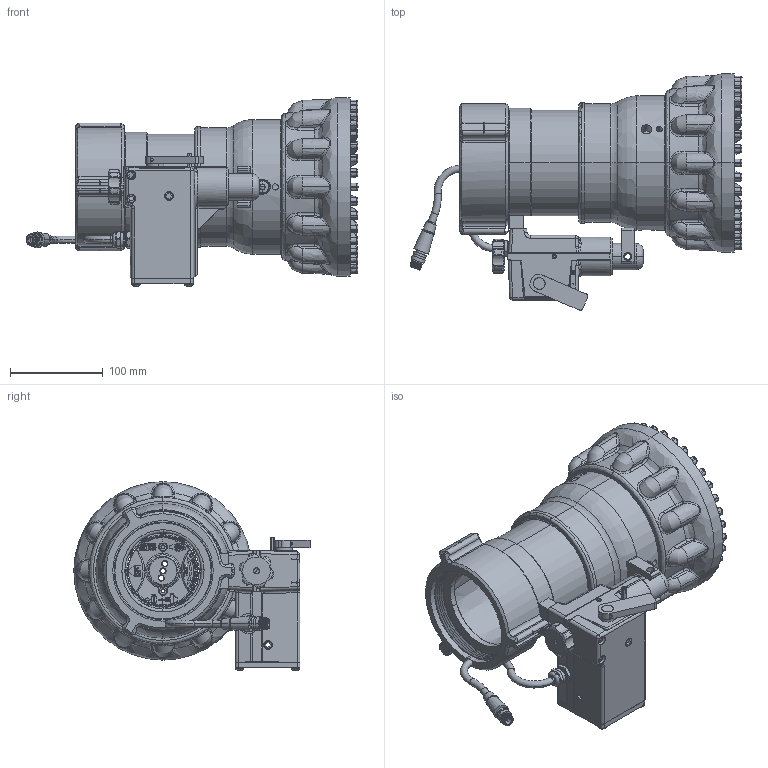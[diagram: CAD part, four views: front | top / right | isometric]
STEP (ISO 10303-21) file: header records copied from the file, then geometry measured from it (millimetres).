
FILE_DESCRIPTION (( 'STEP AP203' ), '1' );
FILE_NAME ('m-erp1250-nn.step', '2014-05-13T19:38:02', ( 'user' ), ( '' ), 'SwSTEP 2.0', 'SolidWorks 2012', '' );
FILE_SCHEMA (( 'CONFIG_CONTROL_DESIGN' ));
Products named in the file (1): m-erp1250-nn
Bounding box: 358.81 x 255.56 x 203.89 mm (x, y, z)
Surface area: 437788.3 mm2 (no closed solid volume)
Topology: 0 solids, 163 shells, 1763 faces, 7097 edges, 5443 vertices
Faces by surface type: bspline 707, plane 375, cylinder 357, cone 162, torus 91, sphere 71
Entity records: 115366 total; most frequent: CARTESIAN_POINT 66258, ORIENTED_EDGE 10897, DIRECTION 7632, EDGE_CURVE 7086, VERTEX_POINT 5436, AXIS2_PLACEMENT_3D 2810, B_SPLINE_CURVE_WITH_KNOTS 2403, LINE 2012
